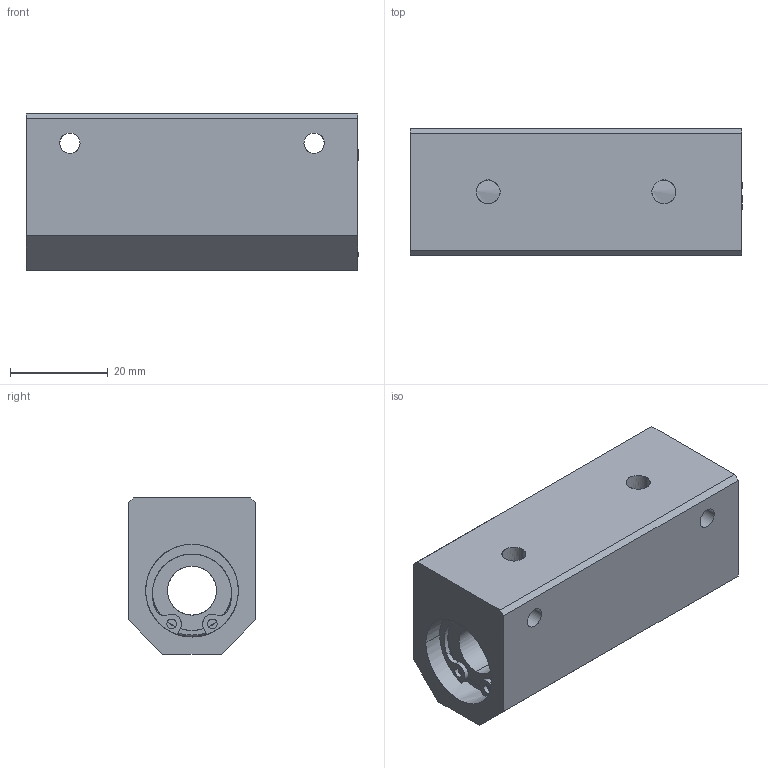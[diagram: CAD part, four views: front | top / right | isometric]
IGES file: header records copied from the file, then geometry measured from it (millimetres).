
Global section: file name: No Iges File Name specified; native system: AutoDesk Inventor R11.0; preprocessor: AutoDesk Inventor Iges Exporter R11.0; author: No Author specified; organization: No Organization specified; date: 20111024.132750; units: millimetre
Bounding box: 68 x 26 x 32 mm (x, y, z)
Surface area: 13845 mm2 (no closed solid volume)
Topology: 0 solids, 0 shells, 122 faces, 940 edges, 940 vertices
Faces by surface type: bspline 122
